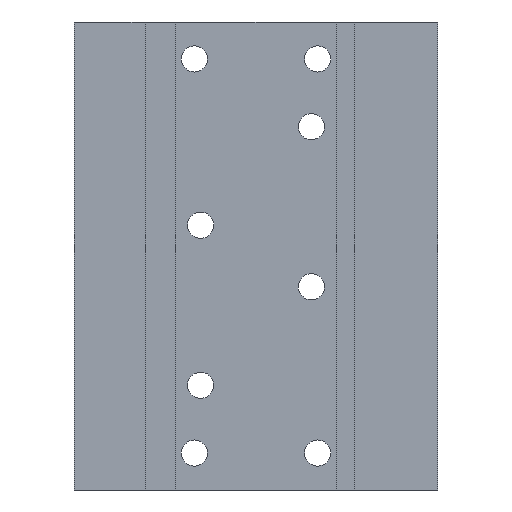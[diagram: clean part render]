
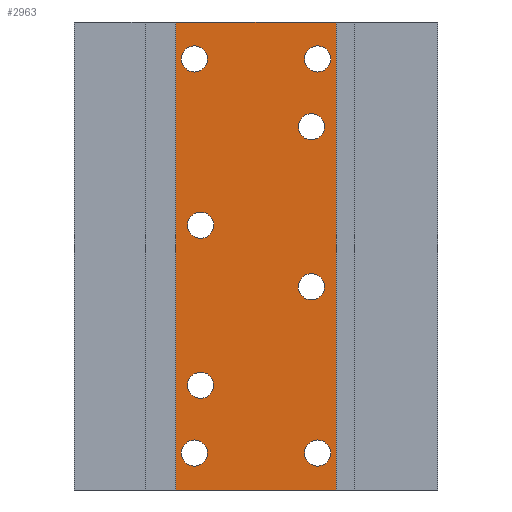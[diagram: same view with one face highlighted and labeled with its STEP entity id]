
A CAD part, front view. The second image highlights one B-rep face of the part: STEP entity #2963.
In plain terms, the highlighted planar face has unit normal (0, -1, 0).
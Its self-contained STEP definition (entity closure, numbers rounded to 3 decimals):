
#70=CARTESIAN_POINT('',(-11.125,9.,17.));
#71=VERTEX_POINT('',#70);
#72=CARTESIAN_POINT('',(-9.0,9.,17.));
#73=DIRECTION('',(0.0,1.0,0.0));
#74=DIRECTION('',(1.0,0.0,0.0));
#75=AXIS2_PLACEMENT_3D('',#72,#73,#74);
#76=CIRCLE('',#75,2.125);
#77=EDGE_CURVE('',#71,#71,#76,.T.);
#119=CARTESIAN_POINT('',(6.875,9.,33.));
#120=VERTEX_POINT('',#119);
#121=CARTESIAN_POINT('',(9.,9.,33.));
#122=DIRECTION('',(0.0,1.0,0.0));
#123=DIRECTION('',(1.0,0.0,0.0));
#124=AXIS2_PLACEMENT_3D('',#121,#122,#123);
#125=CIRCLE('',#124,2.125);
#126=EDGE_CURVE('',#120,#120,#125,.T.);
#1186=CARTESIAN_POINT('',(-11.125,9.,43.));
#1187=VERTEX_POINT('',#1186);
#1188=CARTESIAN_POINT('',(-9.0,9.,43.));
#1189=DIRECTION('',(0.0,1.0,0.0));
#1190=DIRECTION('',(1.0,0.0,0.0));
#1191=AXIS2_PLACEMENT_3D('',#1188,#1189,#1190);
#1192=CIRCLE('',#1191,2.125);
#1193=EDGE_CURVE('',#1187,#1187,#1192,.T.);
#1235=CARTESIAN_POINT('',(6.875,9.,59.));
#1236=VERTEX_POINT('',#1235);
#1237=CARTESIAN_POINT('',(9.,9.,59.));
#1238=DIRECTION('',(0.0,1.0,0.0));
#1239=DIRECTION('',(1.0,0.0,0.0));
#1240=AXIS2_PLACEMENT_3D('',#1237,#1238,#1239);
#1241=CIRCLE('',#1240,2.125);
#1242=EDGE_CURVE('',#1236,#1236,#1241,.T.);
#2019=CARTESIAN_POINT('',(7.875,9.,70.));
#2020=VERTEX_POINT('',#2019);
#2021=CARTESIAN_POINT('',(10.0,9.,70.));
#2022=DIRECTION('',(0.0,1.0,0.0));
#2023=DIRECTION('',(1.0,0.0,0.0));
#2024=AXIS2_PLACEMENT_3D('',#2021,#2022,#2023);
#2025=CIRCLE('',#2024,2.125);
#2026=EDGE_CURVE('',#2020,#2020,#2025,.T.);
#2129=CARTESIAN_POINT('',(-12.125,9.,6.));
#2130=VERTEX_POINT('',#2129);
#2131=CARTESIAN_POINT('',(-10.0,9.,6.));
#2132=DIRECTION('',(0.0,1.0,0.0));
#2133=DIRECTION('',(1.0,0.0,0.0));
#2134=AXIS2_PLACEMENT_3D('',#2131,#2132,#2133);
#2135=CIRCLE('',#2134,2.125);
#2136=EDGE_CURVE('',#2130,#2130,#2135,.T.);
#2239=CARTESIAN_POINT('',(7.875,9.,6.));
#2240=VERTEX_POINT('',#2239);
#2241=CARTESIAN_POINT('',(10.0,9.,6.));
#2242=DIRECTION('',(0.0,1.0,0.0));
#2243=DIRECTION('',(1.0,0.0,0.0));
#2244=AXIS2_PLACEMENT_3D('',#2241,#2242,#2243);
#2245=CIRCLE('',#2244,2.125);
#2246=EDGE_CURVE('',#2240,#2240,#2245,.T.);
#2349=CARTESIAN_POINT('',(-12.125,9.,70.));
#2350=VERTEX_POINT('',#2349);
#2351=CARTESIAN_POINT('',(-10.0,9.,70.));
#2352=DIRECTION('',(0.0,1.0,0.0));
#2353=DIRECTION('',(1.0,0.0,0.0));
#2354=AXIS2_PLACEMENT_3D('',#2351,#2352,#2353);
#2355=CIRCLE('',#2354,2.125);
#2356=EDGE_CURVE('',#2350,#2350,#2355,.T.);
#2883=CARTESIAN_POINT('',(13.0,9.0,76.0));
#2884=VERTEX_POINT('',#2883);
#2891=CARTESIAN_POINT('',(13.0,9.0,0.0));
#2892=VERTEX_POINT('',#2891);
#2893=CARTESIAN_POINT('',(13.0,9.0,0.0));
#2894=DIRECTION('',(0.0,0.0,1.0));
#2895=VECTOR('',#2894,76.0);
#2896=LINE('',#2893,#2895);
#2897=EDGE_CURVE('',#2892,#2884,#2896,.T.);
#2909=CARTESIAN_POINT('',(13.0,9.0,0.0));
#2910=DIRECTION('',(0.0,-1.0,0.0));
#2911=DIRECTION('',(0.0,0.0,-1.0));
#2912=AXIS2_PLACEMENT_3D('',#2909,#2910,#2911);
#2913=PLANE('',#2912);
#2914=CARTESIAN_POINT('',(-13.0,9.0,76.0));
#2915=VERTEX_POINT('',#2914);
#2916=CARTESIAN_POINT('',(13.0,9.0,76.0));
#2917=DIRECTION('',(-1.0,0.0,0.0));
#2918=VECTOR('',#2917,26.0);
#2919=LINE('',#2916,#2918);
#2920=EDGE_CURVE('',#2884,#2915,#2919,.T.);
#2921=ORIENTED_EDGE('',*,*,#2920,.T.);
#2922=CARTESIAN_POINT('',(-13.0,9.0,0.0));
#2923=VERTEX_POINT('',#2922);
#2924=CARTESIAN_POINT('',(-13.0,9.0,0.0));
#2925=DIRECTION('',(0.0,0.0,1.0));
#2926=VECTOR('',#2925,76.0);
#2927=LINE('',#2924,#2926);
#2928=EDGE_CURVE('',#2923,#2915,#2927,.T.);
#2929=ORIENTED_EDGE('',*,*,#2928,.F.);
#2930=CARTESIAN_POINT('',(-13.0,9.0,0.0));
#2931=DIRECTION('',(1.0,0.0,0.0));
#2932=VECTOR('',#2931,26.0);
#2933=LINE('',#2930,#2932);
#2934=EDGE_CURVE('',#2923,#2892,#2933,.T.);
#2935=ORIENTED_EDGE('',*,*,#2934,.T.);
#2936=ORIENTED_EDGE('',*,*,#2897,.T.);
#2937=EDGE_LOOP('',(#2921,#2929,#2935,#2936));
#2938=FACE_OUTER_BOUND('',#2937,.T.);
#2939=ORIENTED_EDGE('',*,*,#77,.T.);
#2940=EDGE_LOOP('',(#2939));
#2941=FACE_BOUND('',#2940,.T.);
#2942=ORIENTED_EDGE('',*,*,#126,.T.);
#2943=EDGE_LOOP('',(#2942));
#2944=FACE_BOUND('',#2943,.T.);
#2945=ORIENTED_EDGE('',*,*,#1193,.T.);
#2946=EDGE_LOOP('',(#2945));
#2947=FACE_BOUND('',#2946,.T.);
#2948=ORIENTED_EDGE('',*,*,#1242,.T.);
#2949=EDGE_LOOP('',(#2948));
#2950=FACE_BOUND('',#2949,.T.);
#2951=ORIENTED_EDGE('',*,*,#2026,.T.);
#2952=EDGE_LOOP('',(#2951));
#2953=FACE_BOUND('',#2952,.T.);
#2954=ORIENTED_EDGE('',*,*,#2136,.T.);
#2955=EDGE_LOOP('',(#2954));
#2956=FACE_BOUND('',#2955,.T.);
#2957=ORIENTED_EDGE('',*,*,#2246,.T.);
#2958=EDGE_LOOP('',(#2957));
#2959=FACE_BOUND('',#2958,.T.);
#2960=ORIENTED_EDGE('',*,*,#2356,.T.);
#2961=EDGE_LOOP('',(#2960));
#2962=FACE_BOUND('',#2961,.T.);
#2963=ADVANCED_FACE('',(#2938,#2941,#2944,#2947,#2950,#2953,#2956,#2959,#2962),#2913,.T.);
